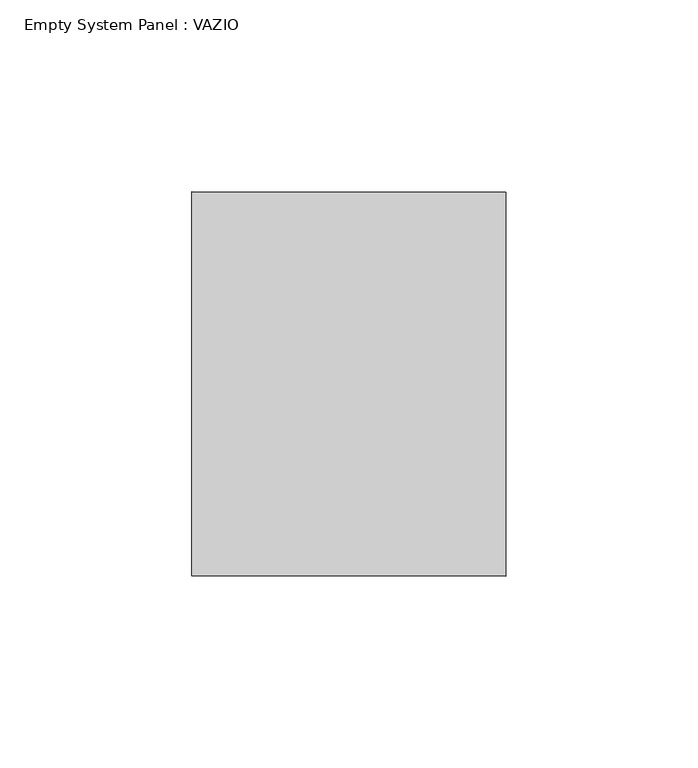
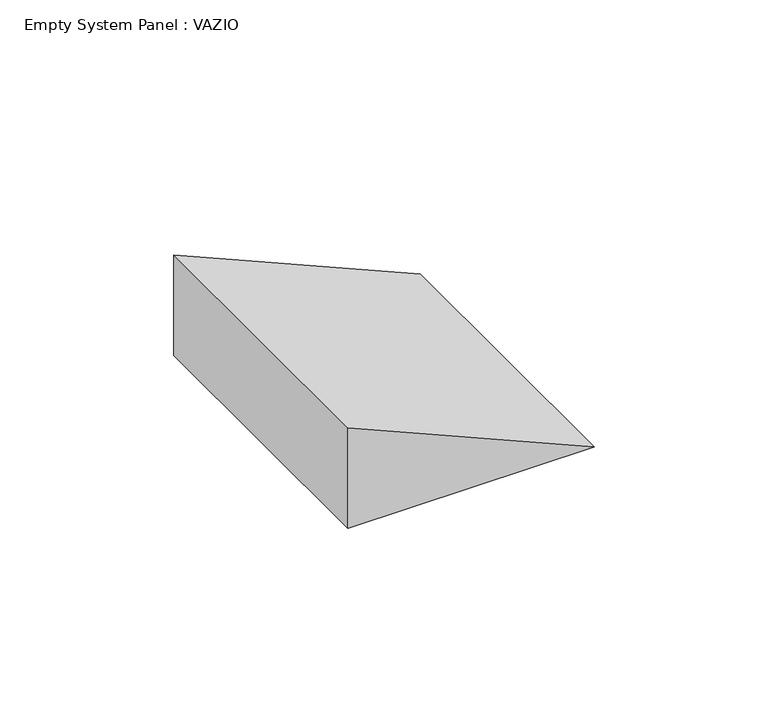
"""IFC4 building model written with IfcOpenShell, lengths in millimetres: plate geometry, Empty System Panel : VAZIO."""

from ifc_helpers import new_model, si_unit, point, frame, frame_2d, origin, place, context, project, spatial, polyline, circle_curve, trimmed, segment, composite_curve, outline, extrude, source, transform, mapped, element, save


def empty_system_panel_vazio_56ca9cd7(model_context):
    return source(origin(), model_context, "Body", "SweptSolid", [
        extrude(outline(composite_curve([segment(polyline([(0.0, -40.8809729), (0.0, 40.8809729)]), True, "CONTINUOUS"), segment(trimmed(circle_curve(frame_2d((-2933.8559746, -1271.1248753)), 3213.8559746), [point((0.0, 40.8809729))], [point((35.212931, -40.8809729))], False, "CARTESIAN"), True, "CONTINUOUS"), segment(polyline([(35.212931, -40.8809729), (0.0, -40.8809729)]), True, "CONTINUOUS")], self_intersect=False)), frame((0.0, -50.0, 0.0), z_axis=(0.0, 1.0, 0.0), x_axis=(0.0, 0.0, 1.0)), (0.0, 0.0, 1.0), 100.0),
    ])


if __name__ == "__main__":
    model = new_model("IFC4")
    model_context = context("Model", 3, world=origin())
    ifc_project = project(units=[si_unit("LENGTHUNIT", "METRE", prefix="MILLI")], contexts=[model_context])
    site = spatial("IfcSite", under=ifc_project)
    building = spatial("IfcBuilding", under=site)
    placement = place(None, origin())
    empty_system_panel_vazio_shape = empty_system_panel_vazio_56ca9cd7(model_context)
    element("IfcPlate", 1, ObjectType="Empty System Panel : VAZIO", at=placement, inside=building, context=model_context, shape_type="MappedRepresentation", body=[
        mapped(empty_system_panel_vazio_shape, transform((0.0, 0.0, 0.0), x_axis=(1.0, 0.0, 0.0), y_axis=(0.0, 1.0, 0.0), z_axis=(0.0, 0.0, 1.0))),
    ])
    save(model, "model.ifc")
